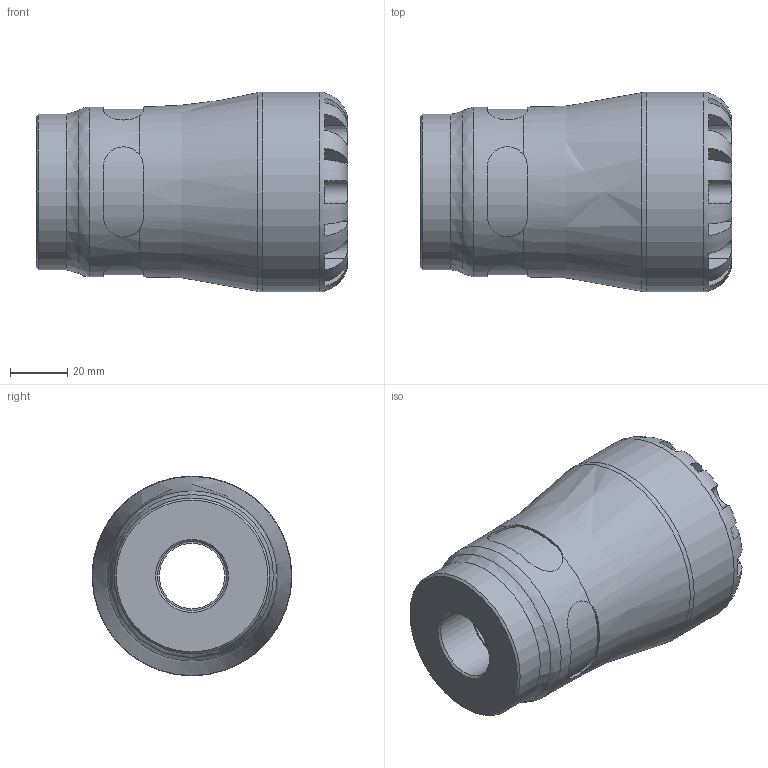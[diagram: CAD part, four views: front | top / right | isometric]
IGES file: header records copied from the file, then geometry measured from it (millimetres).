
Global section: file name: 107300040007_197300040007.ipt; native system: Autodesk Inventor 2015; preprocessor: unknown; author: KIM; date: 20170122.113610; units: millimetre
Bounding box: 109 x 70 x 70 mm (x, y, z)
Volume: 223124.1 mm3; surface area: 40214.4 mm2
Topology: 1 solids, 1 shells, 104 faces, 279 edges, 180 vertices
Faces by surface type: plane 61, revolution 27, cylinder 15, cone 1
Full cylindrical faces by diameter (mm): 54.6 x1, 59.5 x1, 70 x1
